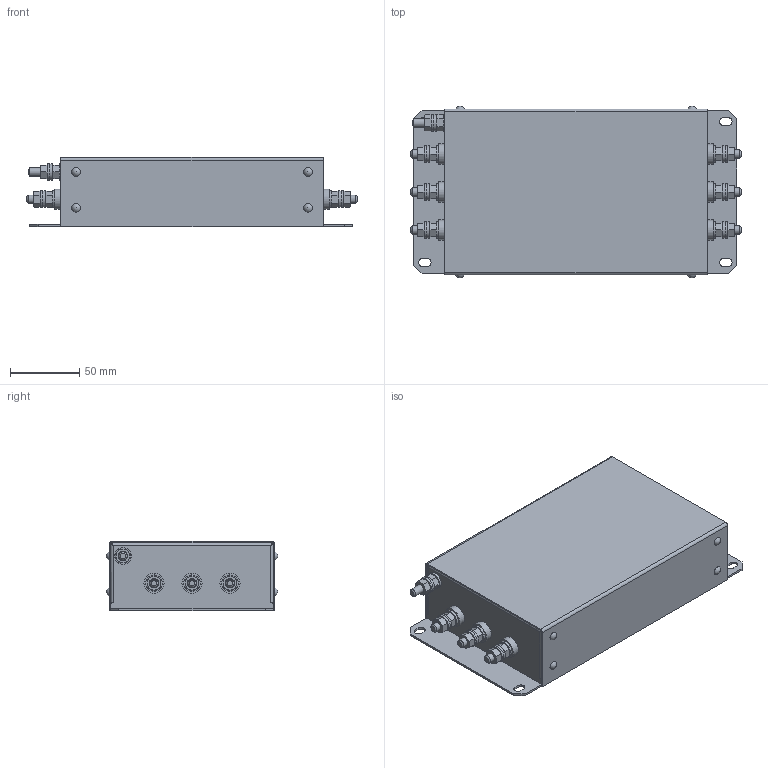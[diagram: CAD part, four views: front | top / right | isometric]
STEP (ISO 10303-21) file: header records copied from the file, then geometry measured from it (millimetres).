
FILE_DESCRIPTION(('STEP AP203'), '1');
FILE_NAME('ÝÌÑ ôèëüòð - IEF-18.5_38.5-4', '', ('UNSPECIFIED'), ('UNSPECIFIED'), 'C3D Converter', 'C3D Toolkit', '');
FILE_SCHEMA(('CONFIG_CONTROL_DESIGN'));
Length unit declared in the file: millimetre
Products named in the file (18): IEF-18.5_38.5-4; ГОСТ 10299-80; DIN 125 (A); DIN 934; ГОСТ 22032-76
Assembly tree (37 placements, depth 4):
  IEF-18.5_38.5-4
    IEF-18.5_38.5-4
      IEF-18.5_38.5-4
      IEF-18.5_38.5-4
      IEF-18.5_38.5-4
      ГОСТ 10299-80  x8
        (unnamed)
      IEF-18.5_38.5-4
    DIN 125 (A)  x3
      (unnamed)
    DIN 934  x2
      (unnamed)
    ГОСТ 22032-76
      (unnamed)
    IEF-18.5_38.5-4  x6
      ГОСТ 22032-76
        (unnamed)
      IEF-18.5_38.5-4
      DIN 125 (A)
        (unnamed)
      DIN 934
        (unnamed)
Bounding box: 239 x 124.2 x 50 mm (x, y, z)
Volume: 121789.5 mm3; surface area: 199107.8 mm2
Topology: 60 solids, 60 shells, 692 faces, 1374 edges, 822 vertices
Faces by surface type: plane 308, cone 210, cylinder 142, torus 16, bspline 8, sphere 8
Full cylindrical faces by diameter (mm): 3.5 x24, 4.917 x14, 6 x14, 6.4 x21, 8 x12, 12 x21, 14.6 x12
Entity records: 8114 total; most frequent: CARTESIAN_POINT 2003, DIRECTION 940, ORIENTED_EDGE 804, EDGE_CURVE 402, AXIS2_PLACEMENT_3D 349, EDGE_LOOP 304, VERTEX_POINT 268, LINE 242
